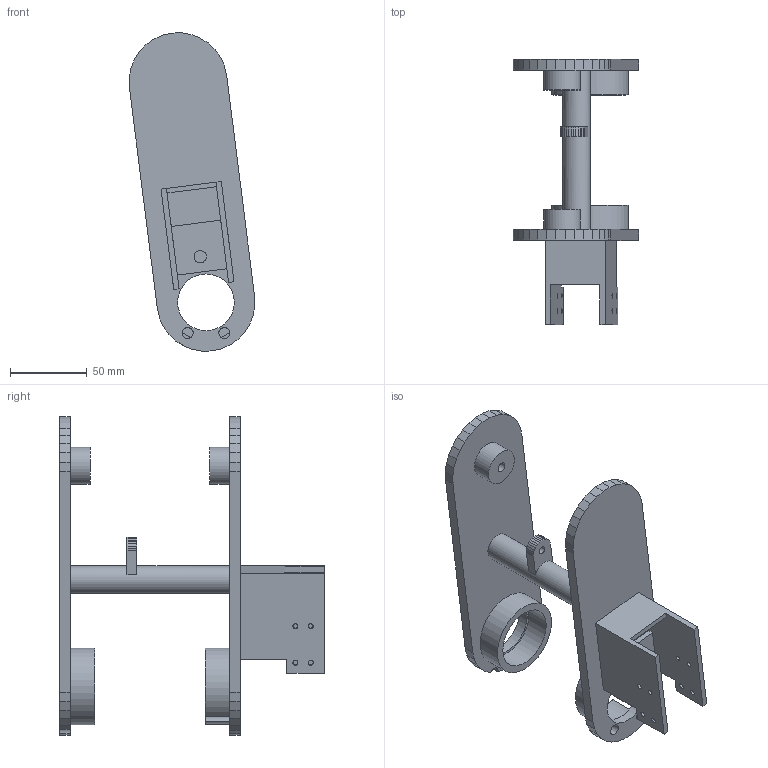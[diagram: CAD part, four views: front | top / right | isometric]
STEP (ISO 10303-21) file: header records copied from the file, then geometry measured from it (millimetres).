
FILE_DESCRIPTION(('Open CASCADE Model'),'2;1');
FILE_NAME('Open CASCADE Shape Model','2026-10-17T23:13:29',('Author'),( 'Open CASCADE'),'Open CASCADE STEP processor 7.9','Open CASCADE 7.9' ,'Unknown');
FILE_SCHEMA(('AUTOMOTIVE_DESIGN { 1 0 10303 214 1 1 1 1 }'));
Length unit declared in the file: millimetre
Products named in the file (1): Open CASCADE STEP translator 7.9 3
Bounding box: 82.09 x 173 x 207.88 mm (x, y, z)
Volume: 238255.7 mm3; surface area: 94854.2 mm2
Topology: 1 solids, 1 shells, 155 faces, 426 edges, 284 vertices
Faces by surface type: plane 122, cylinder 33
Full cylindrical faces by diameter (mm): 3 x3, 3.3 x8, 4.9 x1, 6.3 x2, 7.2 x2, 8.1 x2, 11 x2, 18 x1, 24 x2, 37 x2, 40 x1, 50 x1
Entity records: 11592 total; most frequent: CARTESIAN_POINT 3134, DIRECTION 1522, LINE 1054, VECTOR 1054, ORIENTED_EDGE 852, PCURVE 852, DEFINITIONAL_REPRESENTATION 852, EDGE_CURVE 426
